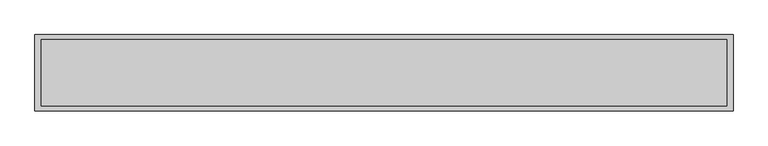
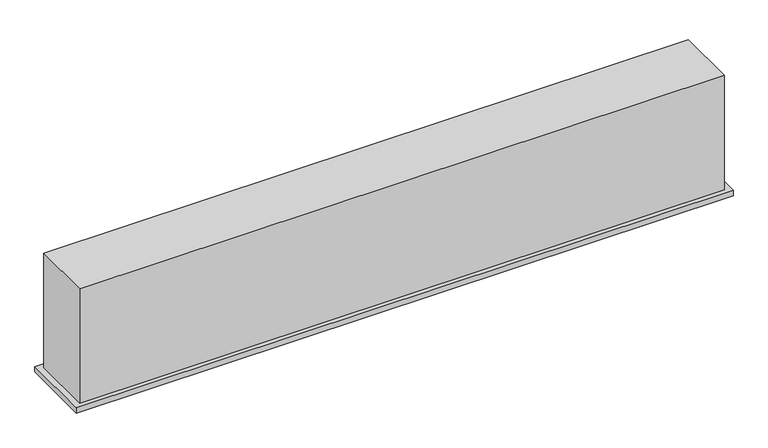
"""IFC4 building model written with IfcOpenShell, lengths in millimetres: air terminal geometry, 033_線状吹出口_BL : BL-T."""

from ifc_helpers import new_model, si_unit, frame, origin, origin_with_axes, place, context, project, spatial, polyline, outline, extrude, source, transform, mapped, element, save


def air_terminal_3069aebc(model_context):
    return source(origin(), model_context, "Body", "SweptSolid", [
        extrude(outline(polyline([(611.0, -66.75), (-611.0, -66.75), (-611.0, 66.75), (611.0, 66.75), (611.0, -66.75)]), holes=[polyline([(600.0, -58.0), (600.0, 58.0), (-600.0, 58.0), (-600.0, -58.0), (600.0, -58.0)])]), frame((0.0, 0.0, -10.0), z_axis=(0.0, 0.0, 1.0), x_axis=(1.0, 0.0, 0.0)), (0.0, 0.0, 1.0), 10.0),
        extrude(outline(polyline([(600.0, 58.0), (600.0, -58.0), (-600.0, -58.0), (-600.0, 58.0), (600.0, 58.0)])), origin_with_axes(), (0.0, 0.0, 1.0), 225.0),
    ])


if __name__ == "__main__":
    model = new_model("IFC4")
    model_context = context("Model", 3, world=origin())
    ifc_project = project(units=[si_unit("LENGTHUNIT", "METRE", prefix="MILLI")], contexts=[model_context])
    site = spatial("IfcSite", under=ifc_project)
    building = spatial("IfcBuilding", under=site)
    placement = place(None, origin())
    air_terminal_shape = air_terminal_3069aebc(model_context)
    element("IfcAirTerminal", 1, ObjectType="033_線状吹出口_BL : BL-T", at=placement, inside=building, context=model_context, shape_type="MappedRepresentation", body=[
        mapped(air_terminal_shape, transform((0.0, 0.0, 0.0), x_axis=(1.0, 0.0, 0.0), y_axis=(0.0, 1.0, 0.0), z_axis=(0.0, 0.0, 1.0))),
    ])
    save(model, "model.ifc")
